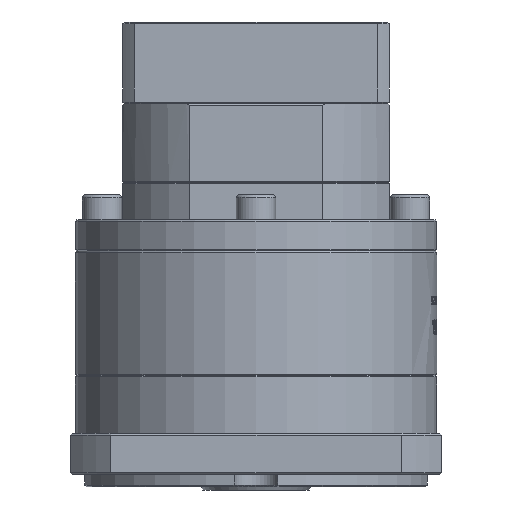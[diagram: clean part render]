
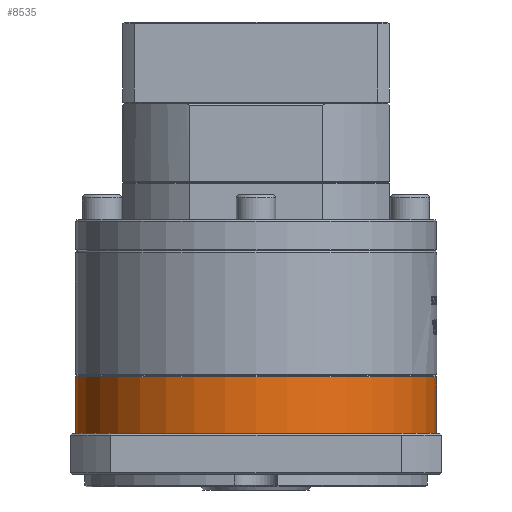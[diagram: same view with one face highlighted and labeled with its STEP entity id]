
A CAD part, front view. The second image highlights one B-rep face of the part: STEP entity #8535.
In plain terms, the highlighted cylindrical face has radius 57.5 mm (diameter 115 mm), a partial arc.
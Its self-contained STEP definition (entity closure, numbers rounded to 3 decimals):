
#2522 = DIRECTION ( 'NONE',  ( 0., 0., 1. ) ) ;
#6083 = CARTESIAN_POINT ( 'NONE',  ( -86.488, 49.942, -94.922 ) ) ;
#8535 = ADVANCED_FACE ( 'NONE', ( #72470 ), #37179, .T. ) ;
#12699 = CARTESIAN_POINT ( 'NONE',  ( -86.488, 49.942, -94.922 ) ) ;
#16049 = CARTESIAN_POINT ( 'NONE',  ( -28.988, 49.942, -76.922 ) ) ;
#17801 = ORIENTED_EDGE ( 'NONE', *, *, #62975, .T. ) ;
#18888 = CIRCLE ( 'NONE', #45359, 57.5 ) ;
#19219 = CARTESIAN_POINT ( 'NONE',  ( -86.488, 49.942, -76.922 ) ) ;
#19695 = AXIS2_PLACEMENT_3D ( 'NONE', #6083, #64617, #48166 ) ;
#21085 = DIRECTION ( 'NONE',  ( 1., 0., 0. ) ) ;
#24188 = CIRCLE ( 'NONE', #29740, 57.5 ) ;
#27665 = DIRECTION ( 'NONE',  ( -1., 0., 0. ) ) ;
#28085 = EDGE_CURVE ( 'NONE', #105552, #60376, #96670, .T. ) ;
#29740 = AXIS2_PLACEMENT_3D ( 'NONE', #19219, #77751, #27665 ) ;
#36710 = VECTOR ( 'NONE', #98590, 1000. ) ;
#37179 = CYLINDRICAL_SURFACE ( 'NONE', #19695, 57.5 ) ;
#41606 = CARTESIAN_POINT ( 'NONE',  ( -28.988, 49.942, -94.922 ) ) ;
#45359 = AXIS2_PLACEMENT_3D ( 'NONE', #12699, #71168, #21085 ) ;
#46526 = CARTESIAN_POINT ( 'NONE',  ( -143.988, 49.942, -94.922 ) ) ;
#47313 = EDGE_CURVE ( 'NONE', #73169, #62612, #103338, .T. ) ;
#47874 = ORIENTED_EDGE ( 'NONE', *, *, #47313, .T. ) ;
#48166 = DIRECTION ( 'NONE',  ( 1., 0., 0. ) ) ;
#48200 = CARTESIAN_POINT ( 'NONE',  ( -28.988, 49.942, -94.922 ) ) ;
#52205 = VECTOR ( 'NONE', #2522, 1000. ) ;
#52662 = CARTESIAN_POINT ( 'NONE',  ( -143.988, 49.942, -94.922 ) ) ;
#58330 = ORIENTED_EDGE ( 'NONE', *, *, #28085, .F. ) ;
#60376 = VERTEX_POINT ( 'NONE', #100830 ) ;
#62612 = VERTEX_POINT ( 'NONE', #16049 ) ;
#62975 = EDGE_CURVE ( 'NONE', #105552, #73169, #18888, .T. ) ;
#64617 = DIRECTION ( 'NONE',  ( 0., 0., 1. ) ) ;
#68380 = ORIENTED_EDGE ( 'NONE', *, *, #107847, .F. ) ;
#71168 = DIRECTION ( 'NONE',  ( 0., 0., 1. ) ) ;
#72470 = FACE_OUTER_BOUND ( 'NONE', #103313, .T. ) ;
#73169 = VERTEX_POINT ( 'NONE', #41606 ) ;
#77751 = DIRECTION ( 'NONE',  ( 0., 0., 1. ) ) ;
#96670 = LINE ( 'NONE', #52662, #52205 ) ;
#98590 = DIRECTION ( 'NONE',  ( 0., 0., 1. ) ) ;
#100830 = CARTESIAN_POINT ( 'NONE',  ( -143.988, 49.942, -76.922 ) ) ;
#103313 = EDGE_LOOP ( 'NONE', ( #58330, #17801, #47874, #68380 ) ) ;
#103338 = LINE ( 'NONE', #48200, #36710 ) ;
#105552 = VERTEX_POINT ( 'NONE', #46526 ) ;
#107847 = EDGE_CURVE ( 'NONE', #60376, #62612, #24188, .T. ) ;
